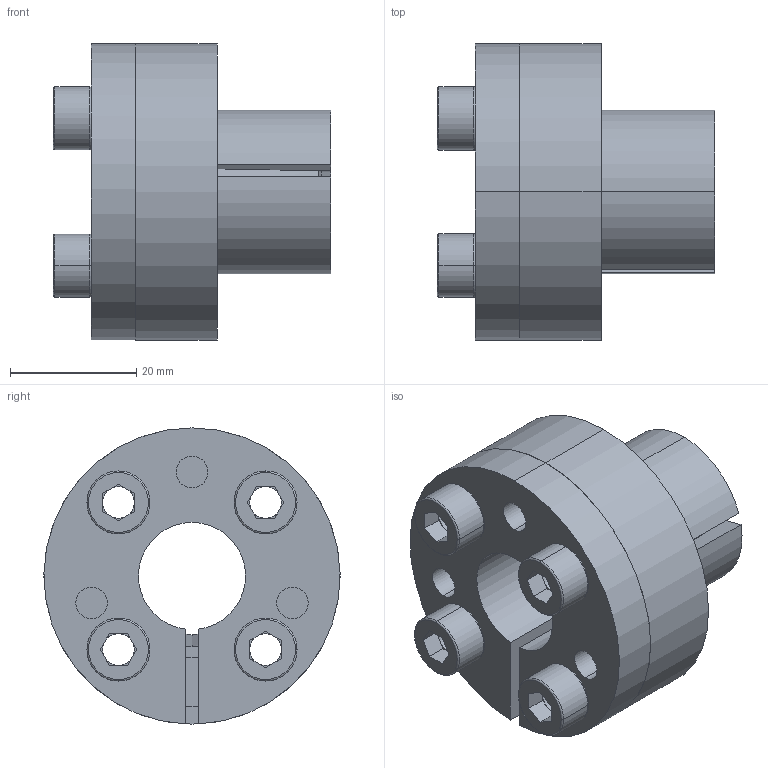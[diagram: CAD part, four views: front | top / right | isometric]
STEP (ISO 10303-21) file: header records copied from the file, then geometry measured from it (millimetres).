
FILE_DESCRIPTION (( 'STEP AP203' ), '1' );
FILE_NAME ('T-17-26.STEP', '2017-10-13T08:12:52', ( 'MYCOM' ), ( '' ), 'SwSTEP 2.0', 'SolidWorks 2015', '' );
FILE_SCHEMA (( 'CONFIG_CONTROL_DESIGN' ));
Length unit declared in the file: millimetre
Products named in the file (1): T-17-26
Bounding box: 44 x 47 x 47 mm (x, y, z)
Surface area: 19670.6 mm2 (no closed solid volume)
Topology: 0 solids, 7 shells, 129 faces, 335 edges, 212 vertices
Faces by surface type: plane 61, cylinder 47, torus 16, cone 5
Entity records: 4057 total; most frequent: DIRECTION 757, CARTESIAN_POINT 695, ORIENTED_EDGE 611, EDGE_CURVE 335, AXIS2_PLACEMENT_3D 296, VERTEX_POINT 212, CIRCLE 166, LINE 165
